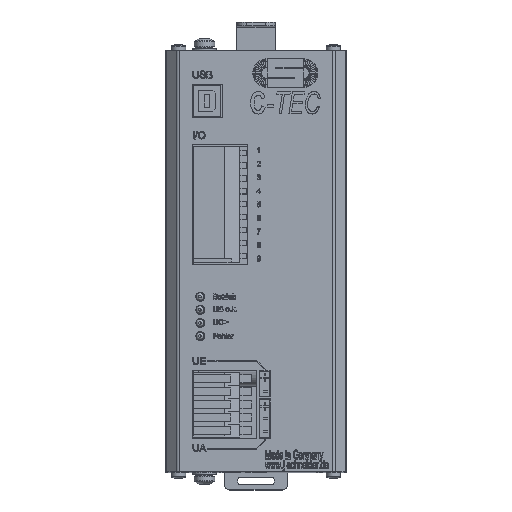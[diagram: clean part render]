
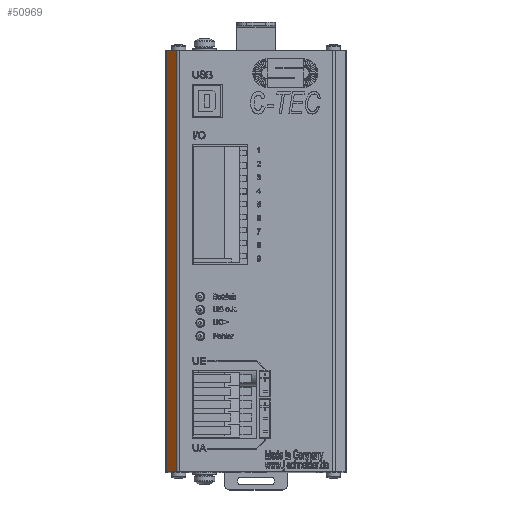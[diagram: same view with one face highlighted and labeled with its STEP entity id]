
A CAD part, top view. The second image highlights one B-rep face of the part: STEP entity #50969.
In plain terms, the highlighted planar face has unit normal (-0.707, 0, 0.707).
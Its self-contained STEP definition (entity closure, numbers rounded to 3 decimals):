
#4511=PLANE('',#54370);
#6540=FACE_OUTER_BOUND('',#9500,.T.);
#9500=EDGE_LOOP('',(#40406,#40407,#40408,#40409));
#13577=LINE('',#73007,#18978);
#13630=LINE('',#73119,#19031);
#13807=LINE('',#73558,#19208);
#13810=LINE('',#73563,#19211);
#18978=VECTOR('',#60739,1.);
#19031=VECTOR('',#60840,1.);
#19208=VECTOR('',#61281,1.);
#19211=VECTOR('',#61288,1.);
#24759=VERTEX_POINT('',#73004);
#24760=VERTEX_POINT('',#73006);
#24794=VERTEX_POINT('',#73116);
#24795=VERTEX_POINT('',#73118);
#30302=EDGE_CURVE('',#24759,#24760,#13577,.T.);
#30362=EDGE_CURVE('',#24794,#24795,#13630,.T.);
#30588=EDGE_CURVE('',#24759,#24795,#13807,.T.);
#30591=EDGE_CURVE('',#24794,#24760,#13810,.T.);
#40406=ORIENTED_EDGE('',*,*,#30588,.T.);
#40407=ORIENTED_EDGE('',*,*,#30362,.F.);
#40408=ORIENTED_EDGE('',*,*,#30591,.T.);
#40409=ORIENTED_EDGE('',*,*,#30302,.F.);
#50969=ADVANCED_FACE('',(#6540),#4511,.T.);
#54370=AXIS2_PLACEMENT_3D('',#73570,#61301,#61302);
#60739=DIRECTION('',(-0.707,0.,-0.707));
#60840=DIRECTION('',(0.707,0.,0.707));
#61281=DIRECTION('',(0.,1.,0.));
#61288=DIRECTION('',(0.,-1.,0.));
#61301=DIRECTION('center_axis',(-0.707,0.,
0.707));
#61302=DIRECTION('ref_axis',(0.707,0.,0.707));
#73004=CARTESIAN_POINT('',(18.173,135.586,136.283));
#73006=CARTESIAN_POINT('',(14.517,135.586,132.626));
#73007=CARTESIAN_POINT('',(18.466,135.586,136.576));
#73116=CARTESIAN_POINT('',(14.517,298.586,132.626));
#73118=CARTESIAN_POINT('',(18.173,298.586,136.283));
#73119=CARTESIAN_POINT('',(14.224,298.586,132.333));
#73558=CARTESIAN_POINT('',(18.173,217.086,136.283));
#73563=CARTESIAN_POINT('',(14.517,217.086,132.626));
#73570=CARTESIAN_POINT('Origin',(16.345,217.086,134.454));
